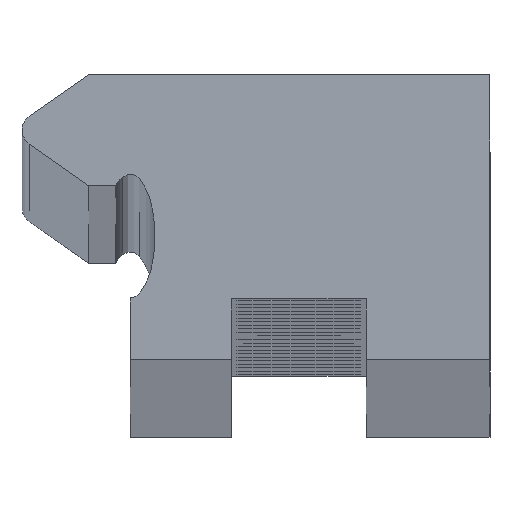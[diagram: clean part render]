
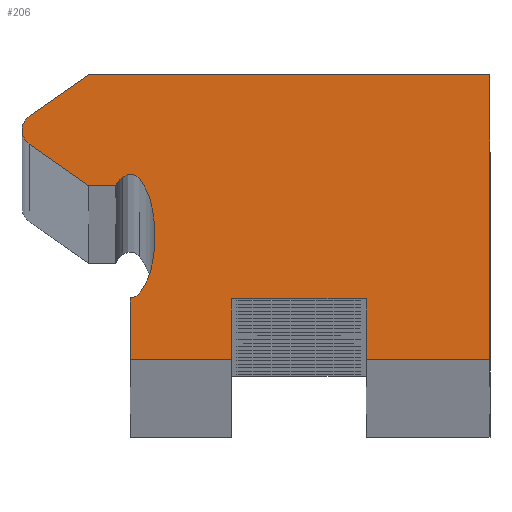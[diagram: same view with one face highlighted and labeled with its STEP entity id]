
A CAD part, top view. The second image highlights one B-rep face of the part: STEP entity #206.
In plain terms, the highlighted planar face has unit normal (0, 0, 1).
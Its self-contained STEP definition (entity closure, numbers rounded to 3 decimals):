
#206=ADVANCED_FACE('',(#536),#537,.F.);
#536=FACE_OUTER_BOUND('',#866,.T.);
#537=PLANE('',#867);
#866=EDGE_LOOP('',(#1889,#1890,#1891,#1892,#1893,#1894,#1895,#1896,#1897,#1898,#1899,#1900,#1901,#1902,#1903,#1904,#1905,#1906,#1907,#1908));
#867=AXIS2_PLACEMENT_3D('',#1909,#1910,#1911);
#1889=ORIENTED_EDGE('',*,*,#2235,.F.);
#1890=ORIENTED_EDGE('',*,*,#2186,.F.);
#1891=ORIENTED_EDGE('',*,*,#2190,.F.);
#1892=ORIENTED_EDGE('',*,*,#2193,.F.);
#1893=ORIENTED_EDGE('',*,*,#2196,.F.);
#1894=ORIENTED_EDGE('',*,*,#2199,.F.);
#1895=ORIENTED_EDGE('',*,*,#2202,.F.);
#1896=ORIENTED_EDGE('',*,*,#2205,.F.);
#1897=ORIENTED_EDGE('',*,*,#2207,.F.);
#1898=ORIENTED_EDGE('',*,*,#1917,.F.);
#1899=ORIENTED_EDGE('',*,*,#2210,.F.);
#1900=ORIENTED_EDGE('',*,*,#2213,.F.);
#1901=ORIENTED_EDGE('',*,*,#2216,.F.);
#1902=ORIENTED_EDGE('',*,*,#2219,.T.);
#1903=ORIENTED_EDGE('',*,*,#2222,.T.);
#1904=ORIENTED_EDGE('',*,*,#2225,.T.);
#1905=ORIENTED_EDGE('',*,*,#2226,.T.);
#1906=ORIENTED_EDGE('',*,*,#1915,.T.);
#1907=ORIENTED_EDGE('',*,*,#2230,.T.);
#1908=ORIENTED_EDGE('',*,*,#2233,.T.);
#1909=CARTESIAN_POINT('',(-0.826,6.553,1976.0));
#1910=DIRECTION('',(0.,0.0,-1.0));
#1911=DIRECTION('',(-1.0,0.0,0.));
#1915=EDGE_CURVE('',#2237,#2241,#2243,.T.);
#1917=EDGE_CURVE('',#2244,#2247,#2248,.T.);
#2186=EDGE_CURVE('',#2695,#2697,#2698,.T.);
#2190=EDGE_CURVE('',#2702,#2695,#2704,.T.);
#2193=EDGE_CURVE('',#2707,#2702,#2709,.T.);
#2196=EDGE_CURVE('',#2712,#2707,#2714,.T.);
#2199=EDGE_CURVE('',#2717,#2712,#2719,.T.);
#2202=EDGE_CURVE('',#2722,#2717,#2724,.T.);
#2205=EDGE_CURVE('',#2727,#2722,#2729,.T.);
#2207=EDGE_CURVE('',#2247,#2727,#2731,.T.);
#2210=EDGE_CURVE('',#2734,#2244,#2736,.T.);
#2213=EDGE_CURVE('',#2739,#2734,#2741,.T.);
#2216=EDGE_CURVE('',#2744,#2739,#2746,.T.);
#2219=EDGE_CURVE('',#2744,#2749,#2751,.T.);
#2222=EDGE_CURVE('',#2749,#2754,#2756,.T.);
#2225=EDGE_CURVE('',#2754,#2759,#2761,.T.);
#2226=EDGE_CURVE('',#2759,#2237,#2762,.T.);
#2230=EDGE_CURVE('',#2241,#2766,#2768,.T.);
#2233=EDGE_CURVE('',#2766,#2771,#2773,.T.);
#2235=EDGE_CURVE('',#2697,#2771,#2775,.T.);
#2237=VERTEX_POINT('',#2777);
#2241=VERTEX_POINT('',#2782);
#2243=CIRCLE('',#2785,6.63);
#2244=VERTEX_POINT('',#2786);
#2247=VERTEX_POINT('',#2790);
#2248=CIRCLE('',#2791,0.76);
#2695=VERTEX_POINT('',#3328);
#2697=VERTEX_POINT('',#3331);
#2698=LINE('',#3332,#3333);
#2702=VERTEX_POINT('',#3339);
#2704=LINE('',#3342,#3343);
#2707=VERTEX_POINT('',#3347);
#2709=LINE('',#3350,#3351);
#2712=VERTEX_POINT('',#3355);
#2714=LINE('',#3358,#3359);
#2717=VERTEX_POINT('',#3363);
#2719=LINE('',#3366,#3367);
#2722=VERTEX_POINT('',#3371);
#2724=LINE('',#3374,#3375);
#2727=VERTEX_POINT('',#3379);
#2729=LINE('',#3382,#3383);
#2731=LINE('',#3386,#3387);
#2734=VERTEX_POINT('',#3390);
#2736=CIRCLE('',#3393,0.76);
#2739=VERTEX_POINT('',#3397);
#2741=LINE('',#3400,#3401);
#2744=VERTEX_POINT('',#3405);
#2746=LINE('',#3408,#3409);
#2749=VERTEX_POINT('',#3412);
#2751=CIRCLE('',#3415,1.116);
#2754=VERTEX_POINT('',#3418);
#2756=CIRCLE('',#3421,0.511);
#2759=VERTEX_POINT('',#3424);
#2761=CIRCLE('',#3427,2.683);
#2762=CIRCLE('',#3428,6.63);
#2766=VERTEX_POINT('',#3432);
#2768=CIRCLE('',#3435,3.097);
#2771=VERTEX_POINT('',#3438);
#2773=CIRCLE('',#3441,0.608);
#2775=LINE('',#3444,#3445);
#2777=CARTESIAN_POINT('',(-6.4,5.486,1976.0));
#2782=CARTESIAN_POINT('',(-6.469,4.53,1976.0));
#2785=AXIS2_PLACEMENT_3D('',#3451,#3452,#3453);
#2786=CARTESIAN_POINT('',(-12.305,10.2,1976.0));
#2790=CARTESIAN_POINT('',(-11.981,10.823,1976.0));
#2791=AXIS2_PLACEMENT_3D('',#3455,#3456,#3457);
#3328=CARTESIAN_POINT('',(-3.,0.0,1976.0));
#3331=CARTESIAN_POINT('',(-7.5,0.0,1976.0));
#3332=CARTESIAN_POINT('',(-3.,0.0,1976.0));
#3333=VECTOR('',#4080,1.0);
#3339=CARTESIAN_POINT('',(-3.,2.7,1976.0));
#3342=CARTESIAN_POINT('',(-3.,2.7,1976.0));
#3343=VECTOR('',#4084,1.0);
#3347=CARTESIAN_POINT('',(3.,2.7,1976.0));
#3350=CARTESIAN_POINT('',(3.,2.7,1976.0));
#3351=VECTOR('',#4087,1.0);
#3355=CARTESIAN_POINT('',(3.,0.0,1976.0));
#3358=CARTESIAN_POINT('',(3.,0.0,1976.0));
#3359=VECTOR('',#4090,1.0);
#3363=CARTESIAN_POINT('',(8.5,0.0,1976.0));
#3366=CARTESIAN_POINT('',(8.5,0.0,1976.0));
#3367=VECTOR('',#4093,1.0);
#3371=CARTESIAN_POINT('',(8.5,12.66,1976.0));
#3374=CARTESIAN_POINT('',(8.5,12.66,1976.0));
#3375=VECTOR('',#4096,1.0);
#3379=CARTESIAN_POINT('',(-9.357,12.66,1976.0));
#3382=CARTESIAN_POINT('',(-9.357,12.66,1976.0));
#3383=VECTOR('',#4099,1.0);
#3386=CARTESIAN_POINT('',(-11.981,10.823,1976.0));
#3387=VECTOR('',#4101,1.0);
#3390=CARTESIAN_POINT('',(-11.981,9.577,1976.0));
#3393=AXIS2_PLACEMENT_3D('',#4106,#4107,#4108);
#3397=CARTESIAN_POINT('',(-9.342,7.73,1976.0));
#3400=CARTESIAN_POINT('',(-9.342,7.73,1976.0));
#3401=VECTOR('',#4111,1.0);
#3405=CARTESIAN_POINT('',(-8.138,7.73,1976.0));
#3408=CARTESIAN_POINT('',(-8.138,7.73,1976.0));
#3409=VECTOR('',#4114,1.0);
#3412=CARTESIAN_POINT('',(-7.829,8.114,1976.0));
#3415=AXIS2_PLACEMENT_3D('',#4119,#4120,#4121);
#3418=CARTESIAN_POINT('',(-7.088,8.04,1976.0));
#3421=AXIS2_PLACEMENT_3D('',#4126,#4127,#4128);
#3424=CARTESIAN_POINT('',(-6.51,6.688,1976.0));
#3427=AXIS2_PLACEMENT_3D('',#4133,#4134,#4135);
#3428=AXIS2_PLACEMENT_3D('',#4136,#4137,#4138);
#3432=CARTESIAN_POINT('',(-7.069,2.96,1976.0));
#3435=AXIS2_PLACEMENT_3D('',#4146,#4147,#4148);
#3438=CARTESIAN_POINT('',(-7.5,2.74,1976.0));
#3441=AXIS2_PLACEMENT_3D('',#4153,#4154,#4155);
#3444=CARTESIAN_POINT('',(-7.5,0.0,1976.0));
#3445=VECTOR('',#4157,1.0);
#3451=CARTESIAN_POINT('',(-13.03,5.486,1976.0));
#3452=DIRECTION('',(0.,0.0,-1.0));
#3453=DIRECTION('',(-1.0,0.0,0.));
#3455=CARTESIAN_POINT('',(-11.545,10.2,1976.0));
#3456=DIRECTION('',(0.,0.0,-1.0));
#3457=DIRECTION('',(-1.0,0.0,0.));
#4080=DIRECTION('',(-1.0,0.0,0.));
#4084=DIRECTION('',(0.0,-1.0,-0.0));
#4087=DIRECTION('',(-1.0,0.0,0.));
#4090=DIRECTION('',(0.0,1.0,0.0));
#4093=DIRECTION('',(-1.0,0.0,0.));
#4096=DIRECTION('',(0.0,-1.0,-0.0));
#4099=DIRECTION('',(1.0,0.0,0.));
#4101=DIRECTION('',(0.819,0.574,0.));
#4106=CARTESIAN_POINT('',(-11.545,10.2,1976.0));
#4107=DIRECTION('',(0.,0.0,-1.0));
#4108=DIRECTION('',(-1.0,0.0,0.));
#4111=DIRECTION('',(-0.819,0.574,0.));
#4114=DIRECTION('',(-1.0,0.0,0.));
#4119=CARTESIAN_POINT('',(-7.136,7.24,1976.0));
#4120=DIRECTION('',(0.,0.0,-1.0));
#4121=DIRECTION('',(-1.0,0.0,0.));
#4126=CARTESIAN_POINT('',(-7.493,7.729,1976.0));
#4127=DIRECTION('',(0.,0.0,-1.0));
#4128=DIRECTION('',(-1.0,0.0,0.));
#4133=CARTESIAN_POINT('',(-9.171,6.349,1976.0));
#4134=DIRECTION('',(0.,0.0,-1.0));
#4135=DIRECTION('',(-1.0,0.0,0.));
#4136=CARTESIAN_POINT('',(-13.03,5.486,1976.0));
#4137=DIRECTION('',(0.,0.0,-1.0));
#4138=DIRECTION('',(-1.0,0.0,0.));
#4146=CARTESIAN_POINT('',(-9.553,4.809,1976.0));
#4147=DIRECTION('',(0.,0.0,-1.0));
#4148=DIRECTION('',(-1.0,0.0,0.));
#4153=CARTESIAN_POINT('',(-7.538,3.347,1976.0));
#4154=DIRECTION('',(0.,0.0,-1.0));
#4155=DIRECTION('',(-1.0,0.0,0.));
#4157=DIRECTION('',(0.0,1.0,0.0));
